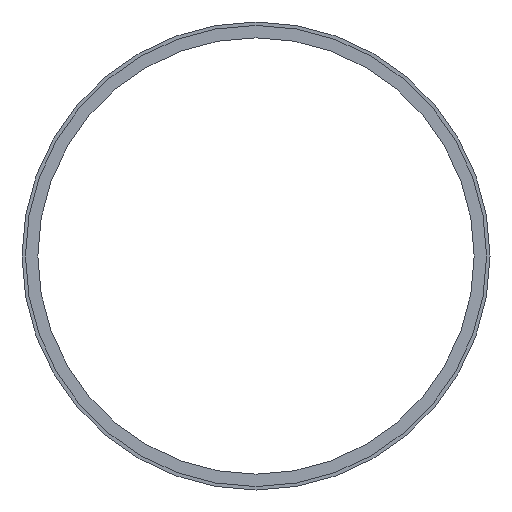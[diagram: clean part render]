
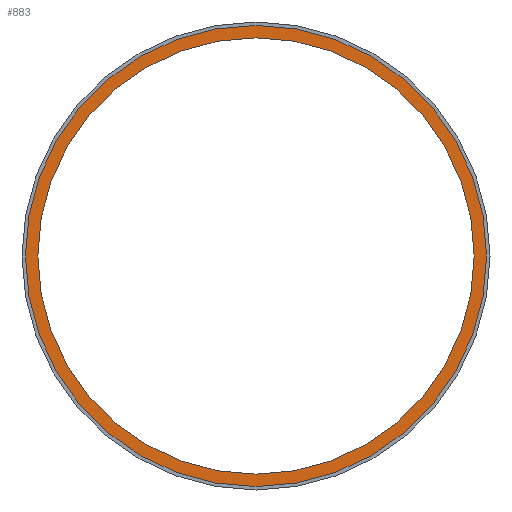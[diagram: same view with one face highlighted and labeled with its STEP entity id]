
A CAD part, front view. The second image highlights one B-rep face of the part: STEP entity #883.
In plain terms, the highlighted planar face has unit normal (0, -1, 0).
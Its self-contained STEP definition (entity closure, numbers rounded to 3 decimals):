
#26 = DIRECTION ( 'NONE',  ( 0., 0., -1. ) ) ;
#38 = ORIENTED_EDGE ( 'NONE', *, *, #386, .F. ) ;
#40 = VERTEX_POINT ( 'NONE', #525 ) ;
#51 = VERTEX_POINT ( 'NONE', #871 ) ;
#62 = ORIENTED_EDGE ( 'NONE', *, *, #862, .T. ) ;
#95 = DIRECTION ( 'NONE',  ( 0., 0., 1. ) ) ;
#162 = FACE_OUTER_BOUND ( 'NONE', #213, .T. ) ;
#171 = ORIENTED_EDGE ( 'NONE', *, *, #533, .F. ) ;
#213 = EDGE_LOOP ( 'NONE', ( #62, #634 ) ) ;
#220 = PLANE ( 'NONE',  #865 ) ;
#241 = EDGE_CURVE ( 'NONE', #51, #689, #825, .T. ) ;
#283 = AXIS2_PLACEMENT_3D ( 'NONE', #823, #638, #743 ) ;
#314 = DIRECTION ( 'NONE',  ( 0., -1., 0. ) ) ;
#338 = CARTESIAN_POINT ( 'NONE',  ( 0., -16., 0. ) ) ;
#367 = CARTESIAN_POINT ( 'NONE',  ( -466., -16., 0. ) ) ;
#368 = CIRCLE ( 'NONE', #728, 466. ) ;
#386 = EDGE_CURVE ( 'NONE', #415, #40, #586, .T. ) ;
#403 = DIRECTION ( 'NONE',  ( 0., 0., -1. ) ) ;
#415 = VERTEX_POINT ( 'NONE', #529 ) ;
#429 = DIRECTION ( 'NONE',  ( 0., -1., 0. ) ) ;
#497 = DIRECTION ( 'NONE',  ( 0., 1., 0. ) ) ;
#525 = CARTESIAN_POINT ( 'NONE',  ( 0., -16., 441. ) ) ;
#529 = CARTESIAN_POINT ( 'NONE',  ( 0., -16., -441. ) ) ;
#531 = CIRCLE ( 'NONE', #837, 441. ) ;
#533 = EDGE_CURVE ( 'NONE', #40, #415, #531, .T. ) ;
#562 = FACE_BOUND ( 'NONE', #827, .T. ) ;
#586 = CIRCLE ( 'NONE', #283, 441. ) ;
#634 = ORIENTED_EDGE ( 'NONE', *, *, #241, .T. ) ;
#638 = DIRECTION ( 'NONE',  ( 0., -1., 0. ) ) ;
#689 = VERTEX_POINT ( 'NONE', #694 ) ;
#694 = CARTESIAN_POINT ( 'NONE',  ( 0., -16., -466. ) ) ;
#728 = AXIS2_PLACEMENT_3D ( 'NONE', #842, #429, #26 ) ;
#743 = DIRECTION ( 'NONE',  ( 0., 0., -1. ) ) ;
#796 = CARTESIAN_POINT ( 'NONE',  ( 0., -16., 0. ) ) ;
#804 = AXIS2_PLACEMENT_3D ( 'NONE', #796, #314, #867 ) ;
#816 = DIRECTION ( 'NONE',  ( 0., -1., 0. ) ) ;
#823 = CARTESIAN_POINT ( 'NONE',  ( 0., -16., 0. ) ) ;
#825 = CIRCLE ( 'NONE', #804, 466. ) ;
#827 = EDGE_LOOP ( 'NONE', ( #38, #171 ) ) ;
#837 = AXIS2_PLACEMENT_3D ( 'NONE', #338, #816, #403 ) ;
#842 = CARTESIAN_POINT ( 'NONE',  ( 0., -16., 0. ) ) ;
#862 = EDGE_CURVE ( 'NONE', #689, #51, #368, .T. ) ;
#865 = AXIS2_PLACEMENT_3D ( 'NONE', #367, #497, #95 ) ;
#867 = DIRECTION ( 'NONE',  ( 0., 0., -1. ) ) ;
#871 = CARTESIAN_POINT ( 'NONE',  ( 0., -16., 466. ) ) ;
#883 = ADVANCED_FACE ( 'NONE', ( #562, #162 ), #220, .F. ) ;
